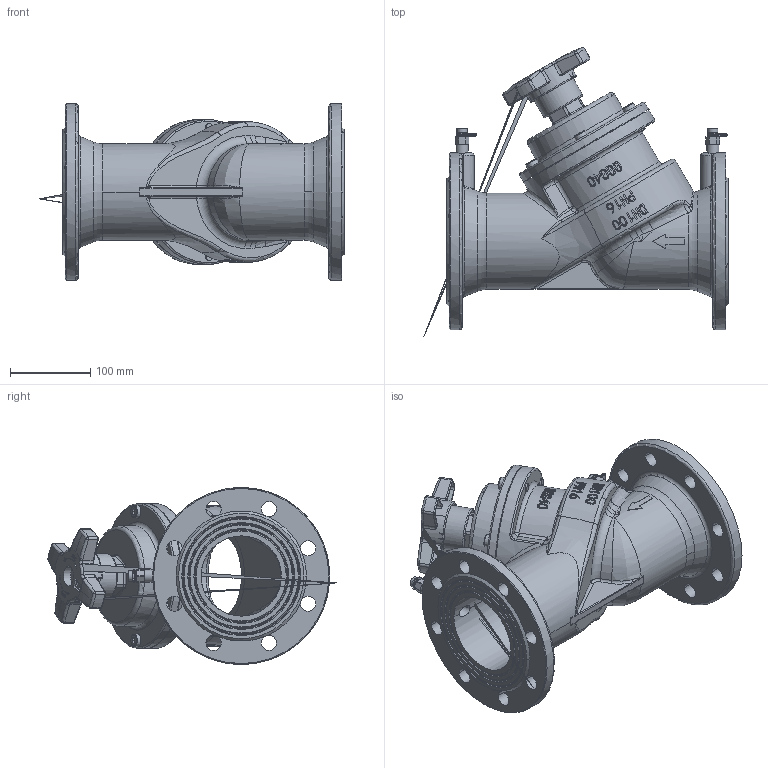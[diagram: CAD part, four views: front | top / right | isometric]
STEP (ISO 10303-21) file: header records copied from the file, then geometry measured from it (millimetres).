
FILE_DESCRIPTION(('STEP AP203'), '1');
FILE_NAME('3D_347-100-16', '', ('UNSPECIFIED'), ('UNSPECIFIED'), 'C3D Converter', 'C3D Toolkit', '');
FILE_SCHEMA(('CONFIG_CONTROL_DESIGN'));
Length unit declared in the file: millimetre
Bounding box: 378.53 x 359.04 x 220 mm (x, y, z)
Volume: 3546222.4 mm3; surface area: 673902.9 mm2
Topology: 1 solids, 7 shells, 1699 faces, 4455 edges, 2830 vertices
Faces by surface type: plane 718, cylinder 420, bspline 343, torus 146, cone 57, sphere 15
Full cylindrical faces by diameter (mm): 3.5 x6, 5 x1, 8 x2, 10 x7, 11 x3, 12 x6, 12.8 x4, 20.3 x3, 24.6 x2, 25 x1, 26 x1, 28.4 x1, 36 x1, 36.5 x1, 43 x1, 56 x1, 61.5 x1, 96 x2, 100 x2, 105 x1, 117 x1, 118 x1, 119 x1, 125 x1, 180 x2, 220 x2
Entity records: 188641 total; most frequent: CARTESIAN_POINT 136841, ORIENTED_EDGE 8582, DIRECTION 6776, EDGE_CURVE 4291, VERTEX_POINT 2821, AXIS2_PLACEMENT_3D 2477, EDGE_LOOP 2010, FACE_BOUND 1835
